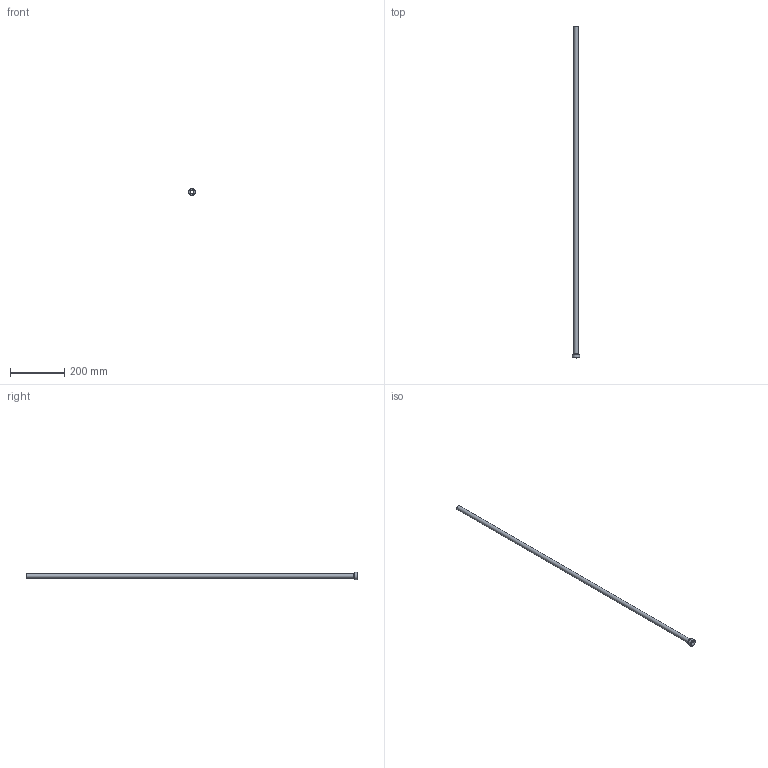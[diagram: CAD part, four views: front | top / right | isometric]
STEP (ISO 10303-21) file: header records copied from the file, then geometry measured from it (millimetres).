
FILE_DESCRIPTION(/* description */ (''),/* implementation_level */ '2;1');
FILE_NAME(/* name */ 'C:/Users/drich/Desktop/PT34-625-48 v1.step',/* time_stamp */ '2019-12-27T15:51:32-06:00',/* author */ (''),/* organization */ (''),/* preprocessor_version */ 'ST-DEVELOPER v18',/* originating_system */ 'Autodesk Translation Framework v8.12.0.6',/* authorisation */ '');
FILE_SCHEMA (('AUTOMOTIVE_DESIGN { 1 0 10303 214 3 1 1 }'));
Length unit declared in the file: inch
Products named in the file (1): PT34-625-48
Bounding box: 26.3 x 1219.2 x 26.3 mm (x, y, z)
Volume: 45090.6 mm3; surface area: 117245.6 mm2
Topology: 1 solids, 1 shells, 19 faces, 48 edges, 34 vertices
Faces by surface type: plane 11, cylinder 4, torus 2, cone 2
Full cylindrical faces by diameter (mm): 14.453 x1, 15.85 x1, 19.05 x1, 26.299 x1
Entity records: 633 total; most frequent: DIRECTION 112, CARTESIAN_POINT 102, ORIENTED_EDGE 96, EDGE_CURVE 48, AXIS2_PLACEMENT_3D 44, VERTEX_POINT 34, CIRCLE 24, EDGE_LOOP 24
